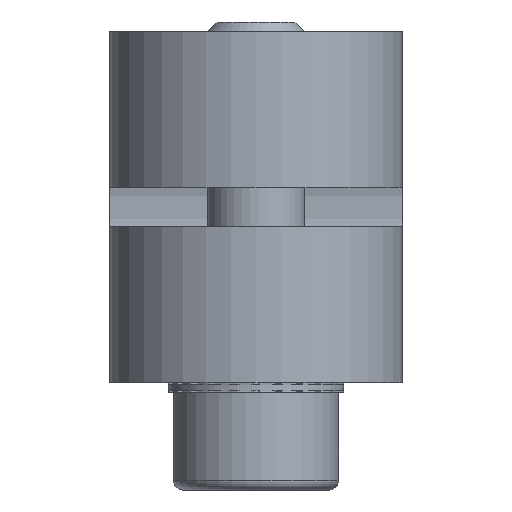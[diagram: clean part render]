
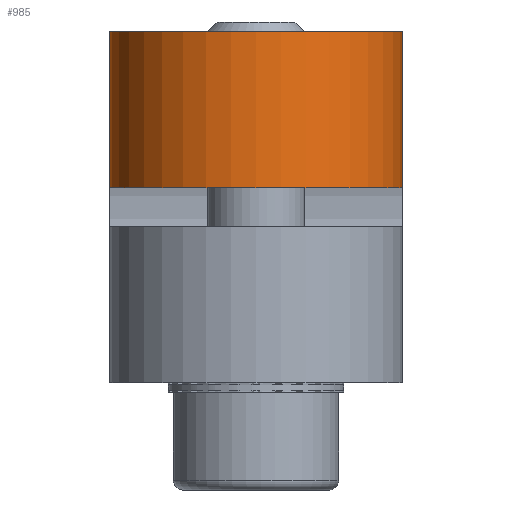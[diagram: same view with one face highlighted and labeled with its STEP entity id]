
A CAD part, front view. The second image highlights one B-rep face of the part: STEP entity #985.
In plain terms, the highlighted cylindrical face has radius 7.5 mm (diameter 15 mm), a partial arc.
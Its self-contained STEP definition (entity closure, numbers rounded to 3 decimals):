
#985=ADVANCED_FACE('',(#1784),#1785,.T.);
#1784=FACE_OUTER_BOUND('',#2571,.T.);
#1785=CYLINDRICAL_SURFACE('',#2572,7.5);
#2571=EDGE_LOOP('',(#4818,#4819,#4820,#4821));
#2572=AXIS2_PLACEMENT_3D('',#4822,#4823,#4824);
#4818=ORIENTED_EDGE('',*,*,#5876,.T.);
#4819=ORIENTED_EDGE('',*,*,#5871,.F.);
#4820=ORIENTED_EDGE('',*,*,#5842,.T.);
#4821=ORIENTED_EDGE('',*,*,#5862,.T.);
#4822=CARTESIAN_POINT('',(-13.75,7.5,67.2));
#4823=DIRECTION('',(0.,0.0,-1.0));
#4824=DIRECTION('',(-1.0,0.0,0.));
#5842=EDGE_CURVE('',#7185,#7186,#7187,.F.);
#5862=EDGE_CURVE('',#7186,#7220,#7222,.T.);
#5871=EDGE_CURVE('',#7185,#7234,#7235,.T.);
#5876=EDGE_CURVE('',#7220,#7234,#7242,.T.);
#7185=VERTEX_POINT('',#8990);
#7186=VERTEX_POINT('',#8991);
#7187=CIRCLE('',#8992,7.5);
#7220=VERTEX_POINT('',#9036);
#7222=LINE('',#9039,#9040);
#7234=VERTEX_POINT('',#9057);
#7235=LINE('',#9058,#9059);
#7242=CIRCLE('',#9067,7.5);
#8990=CARTESIAN_POINT('',(-13.75,0.,-1.0));
#8991=CARTESIAN_POINT('',(-13.75,15.0,-1.0));
#8992=AXIS2_PLACEMENT_3D('',#10249,#10250,#10251);
#9036=CARTESIAN_POINT('',(-13.75,15.0,-9.0));
#9039=CARTESIAN_POINT('',(-13.75,15.0,67.2));
#9040=VECTOR('',#10276,1.0);
#9057=CARTESIAN_POINT('',(-13.75,0.,-9.0));
#9058=CARTESIAN_POINT('',(-13.75,0.,67.2));
#9059=VECTOR('',#10288,1.0);
#9067=AXIS2_PLACEMENT_3D('',#10296,#10297,#10298);
#10249=CARTESIAN_POINT('',(-13.75,7.5,-1.0));
#10250=DIRECTION('',(0.,0.0,1.0));
#10251=DIRECTION('',(1.0,0.0,0.));
#10276=DIRECTION('',(0.,0.0,-1.0));
#10288=DIRECTION('',(0.,0.0,-1.0));
#10296=CARTESIAN_POINT('',(-13.75,7.5,-9.0));
#10297=DIRECTION('',(0.,0.0,1.0));
#10298=DIRECTION('',(1.0,0.0,0.));
